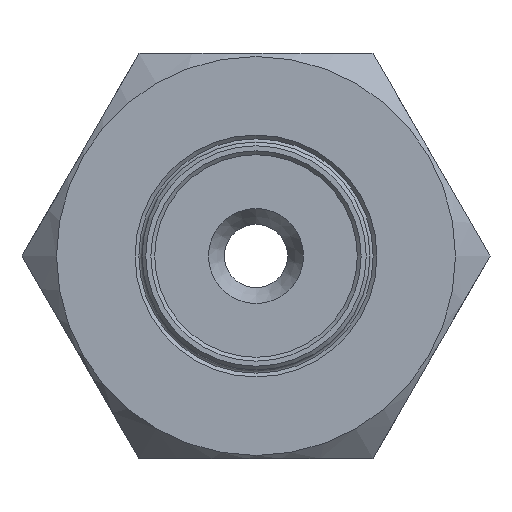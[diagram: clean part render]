
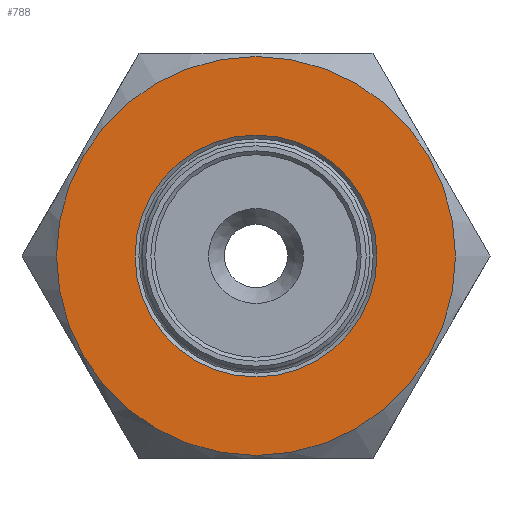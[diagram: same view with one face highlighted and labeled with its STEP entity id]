
A CAD part, left-side view. The second image highlights one B-rep face of the part: STEP entity #788.
In plain terms, the highlighted planar face has unit normal (-1, 0, 0).
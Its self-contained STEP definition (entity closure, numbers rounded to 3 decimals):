
#46=FACE_BOUND('',#141,.T.);
#63=PLANE('',#922);
#89=FACE_OUTER_BOUND('',#140,.T.);
#140=EDGE_LOOP('',(#581));
#141=EDGE_LOOP('',(#582));
#282=CIRCLE('',#903,15.75);
#289=CIRCLE('',#917,9.55);
#353=VERTEX_POINT('',#1345);
#359=VERTEX_POINT('',#1371);
#430=EDGE_CURVE('',#353,#353,#282,.T.);
#442=EDGE_CURVE('',#359,#359,#289,.T.);
#581=ORIENTED_EDGE('',*,*,#430,.T.);
#582=ORIENTED_EDGE('',*,*,#442,.F.);
#788=ADVANCED_FACE('',(#89,#46),#63,.T.);
#903=AXIS2_PLACEMENT_3D('',#1347,#1028,#1029);
#917=AXIS2_PLACEMENT_3D('',#1372,#1061,#1062);
#922=AXIS2_PLACEMENT_3D('',#1382,#1073,#1074);
#1028=DIRECTION('center_axis',(-1.,0.,0.));
#1029=DIRECTION('ref_axis',(0.,1.,0.));
#1061=DIRECTION('center_axis',(-1.,0.,0.));
#1062=DIRECTION('ref_axis',(0.,0.,-1.));
#1073=DIRECTION('center_axis',(-1.,0.,0.));
#1074=DIRECTION('ref_axis',(0.,0.,1.));
#1345=CARTESIAN_POINT('',(-13.5,-15.75,0.));
#1347=CARTESIAN_POINT('Origin',(-13.5,0.,0.));
#1371=CARTESIAN_POINT('',(-13.5,0.,9.55));
#1372=CARTESIAN_POINT('Origin',(-13.5,0.,0.));
#1382=CARTESIAN_POINT('Origin',(-13.5,0.,0.));
